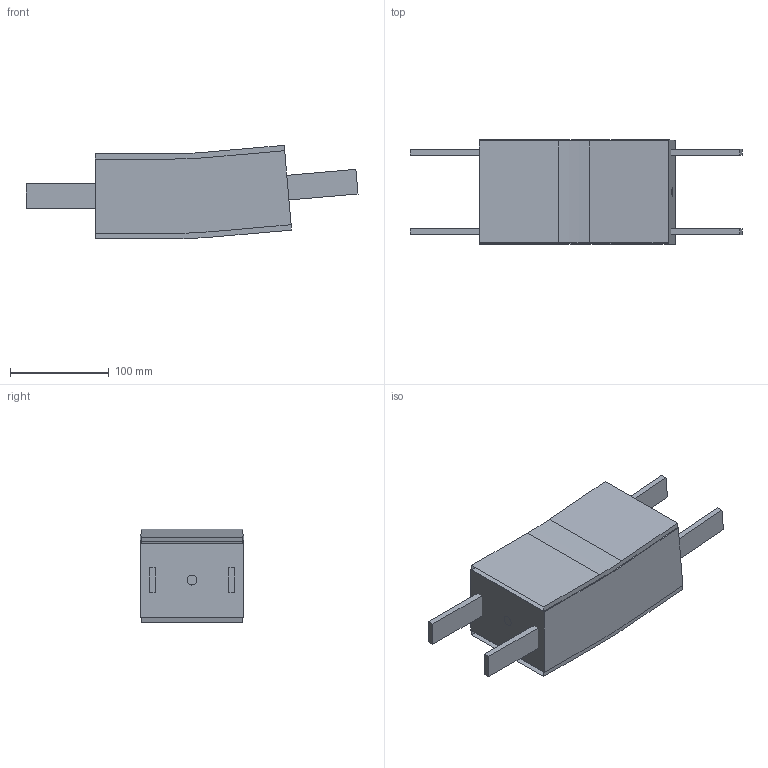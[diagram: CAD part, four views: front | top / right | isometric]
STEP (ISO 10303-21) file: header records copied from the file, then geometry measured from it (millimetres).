
FILE_DESCRIPTION(/* description */ ('Vertikaler Gleitbogen, 5°, R400'),/* implementation_level */ '2;1');
FILE_NAME(/* name */ 'T:\vdz0\Step Daten Website\modulflex FH-System\Vertikale Gleitbögen\FHBV 5R400_44024.stp',/* time_stamp */ '2024-09-03T14:29:17+02:00',/* author */ ('lzb0'),/* organization */ ('modular automation GmbH'),/* preprocessor_version */ 'ST-DEVELOPER v18.1',/* originating_system */ 'Autodesk Inventor 2021',/* authorisation */ '');
FILE_SCHEMA (('AUTOMOTIVE_DESIGN { 1 0 10303 214 3 1 1 }'));
Length unit declared in the file: millimetre
Products named in the file (1): FHBV 05R400
Bounding box: 335.38 x 105 x 94.33 mm (x, y, z)
Volume: 1618889.4 mm3; surface area: 207054.1 mm2
Topology: 5 solids, 9 shells, 52 faces, 126 edges, 84 vertices
Faces by surface type: plane 44, cylinder 8
Full cylindrical faces by diameter (mm): 10 x2
Entity records: 1598 total; most frequent: CARTESIAN_POINT 270, DIRECTION 250, ORIENTED_EDGE 232, EDGE_CURVE 126, LINE 110, VECTOR 110, VERTEX_POINT 84, AXIS2_PLACEMENT_3D 70
